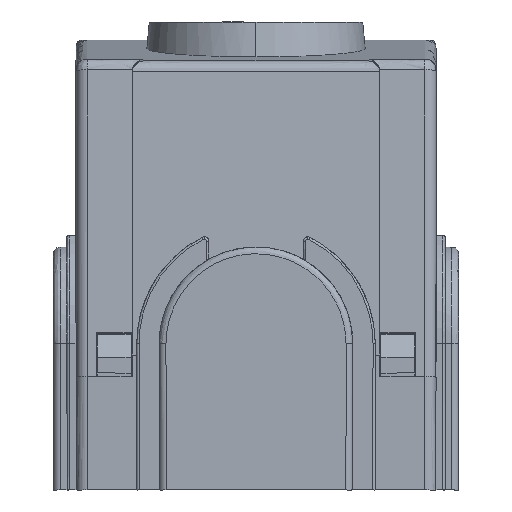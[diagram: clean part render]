
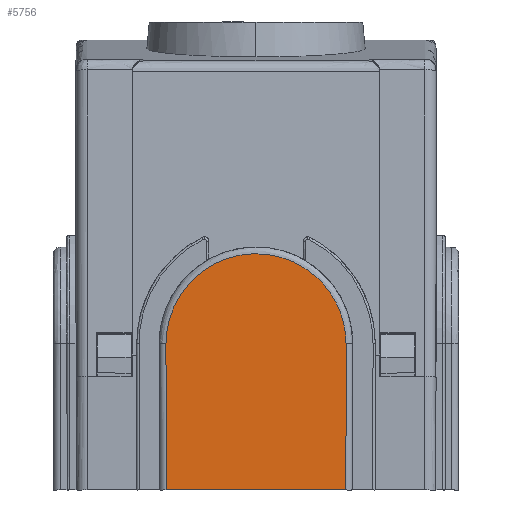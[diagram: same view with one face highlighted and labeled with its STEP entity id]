
A CAD part, left-side view. The second image highlights one B-rep face of the part: STEP entity #5756.
In plain terms, the highlighted free-form (B-spline) face has degree [1, 1] with [2, 2] control points.
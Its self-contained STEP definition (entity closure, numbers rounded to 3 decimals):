
#416 = CARTESIAN_POINT ( 'NONE',  ( -14.668, -2.821, 10.4 ) ) ;
#943 = B_SPLINE_CURVE_WITH_KNOTS ( 'NONE', 1,
 ( #15272, #947 ),
 .UNSPECIFIED., .F., .F.,
 ( 2, 2 ),
 ( 0., 1. ),
 .UNSPECIFIED. ) ;
#947 = CARTESIAN_POINT ( 'NONE',  ( -14.668, 5.179, 10.4 ) ) ;
#1177 = ORIENTED_EDGE ( 'NONE', *, *, #13240, .F. ) ;
#1979 = VERTEX_POINT ( 'NONE', #3981 ) ;
#2036 = ORIENTED_EDGE ( 'NONE', *, *, #6308, .F. ) ;
#2452 = VERTEX_POINT ( 'NONE', #16481 ) ;
#2510 = CARTESIAN_POINT ( 'NONE',  ( -14.668, -2.821, 16.9 ) ) ;
#3135 = CARTESIAN_POINT ( 'NONE',  ( -14.668, 5.179, 16.9 ) ) ;
#3496 = EDGE_CURVE ( 'NONE', #8323, #2452, #4912, .T. ) ;
#3981 = CARTESIAN_POINT ( 'NONE',  ( -14.668, 5.179, 16.9 ) ) ;
#4033 = ORIENTED_EDGE ( 'NONE', *, *, #3496, .F. ) ;
#4634 = CARTESIAN_POINT ( 'NONE',  ( -14.668, 5.179, 10.4 ) ) ;
#4738 = CARTESIAN_POINT ( 'NONE',  ( -14.668, -2.821, 16.9 ) ) ;
#4912 = B_SPLINE_CURVE_WITH_KNOTS ( 'NONE', 1,
 ( #2510, #15522 ),
 .UNSPECIFIED., .F., .F.,
 ( 2, 2 ),
 ( -1., 0. ),
 .UNSPECIFIED. ) ;
#5505 = CARTESIAN_POINT ( 'NONE',  ( -14.668, -2.821, 20.963 ) ) ;
#5756 = ADVANCED_FACE ( 'NONE', ( #12511 ), #9347, .F. ) ;
#5881 =( BOUNDED_CURVE ( )  B_SPLINE_CURVE ( 3, ( #3135, #14910, #8390, #11017 ),
 .UNSPECIFIED., .F., .F. ) 
 B_SPLINE_CURVE_WITH_KNOTS ( ( 4, 4 ),
 ( 0., 3.142 ),
 .UNSPECIFIED. ) 
 CURVE ( )  GEOMETRIC_REPRESENTATION_ITEM ( )  RATIONAL_B_SPLINE_CURVE ( ( 0.957, 0.319, 0.319, 0.957 ) ) 
 REPRESENTATION_ITEM ( '' )  );
#6308 = EDGE_CURVE ( 'NONE', #1979, #8323, #5881, .T. ) ;
#8323 = VERTEX_POINT ( 'NONE', #4738 ) ;
#8390 = CARTESIAN_POINT ( 'NONE',  ( -14.668, -2.821, 24.9 ) ) ;
#9347 = B_SPLINE_SURFACE_WITH_KNOTS ( 'NONE', 1, 1, ( 
 ( #5505, #15978 ),
 ( #416, #14652 ) ),
 .UNSPECIFIED., .F., .F., .F.,
 ( 2, 2 ),
 ( 2, 2 ),
 ( 0., 1. ),
 ( 0., 1. ),
 .UNSPECIFIED. ) ;
#11017 = CARTESIAN_POINT ( 'NONE',  ( -14.668, -2.821, 16.9 ) ) ;
#11456 = B_SPLINE_CURVE_WITH_KNOTS ( 'NONE', 1,
 ( #4634, #16304 ),
 .UNSPECIFIED., .F., .F.,
 ( 2, 2 ),
 ( -1., 0. ),
 .UNSPECIFIED. ) ;
#11473 = VERTEX_POINT ( 'NONE', #15863 ) ;
#12511 = FACE_OUTER_BOUND ( 'NONE', #12548, .T. ) ;
#12548 = EDGE_LOOP ( 'NONE', ( #1177, #16044, #4033, #2036 ) ) ;
#13240 = EDGE_CURVE ( 'NONE', #11473, #1979, #11456, .T. ) ;
#14652 = CARTESIAN_POINT ( 'NONE',  ( -14.668, 5.179, 10.4 ) ) ;
#14910 = CARTESIAN_POINT ( 'NONE',  ( -14.668, 5.179, 24.9 ) ) ;
#15272 = CARTESIAN_POINT ( 'NONE',  ( -14.668, -2.821, 10.4 ) ) ;
#15522 = CARTESIAN_POINT ( 'NONE',  ( -14.668, -2.821, 10.4 ) ) ;
#15863 = CARTESIAN_POINT ( 'NONE',  ( -14.668, 5.179, 10.4 ) ) ;
#15978 = CARTESIAN_POINT ( 'NONE',  ( -14.668, 5.179, 20.963 ) ) ;
#16044 = ORIENTED_EDGE ( 'NONE', *, *, #16551, .F. ) ;
#16304 = CARTESIAN_POINT ( 'NONE',  ( -14.668, 5.179, 16.9 ) ) ;
#16481 = CARTESIAN_POINT ( 'NONE',  ( -14.668, -2.821, 10.4 ) ) ;
#16551 = EDGE_CURVE ( 'NONE', #2452, #11473, #943, .T. ) ;
